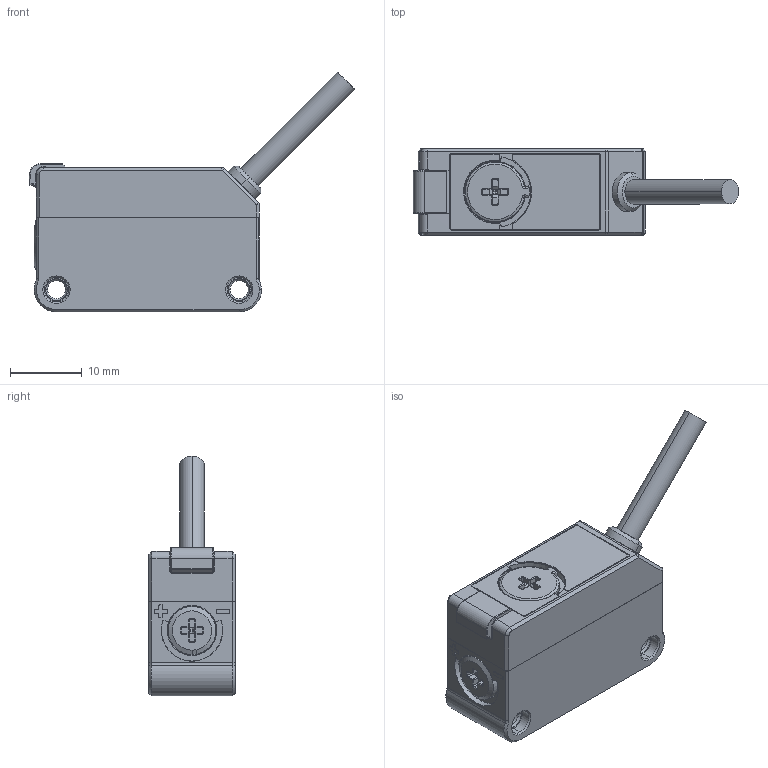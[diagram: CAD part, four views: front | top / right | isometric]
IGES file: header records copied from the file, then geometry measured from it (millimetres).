
Start section:  PTC IGES file: pe11111.igs
Global section: file name: pe11111.igs; native system: Creo Parametric by PTC Inc.; preprocessor: 2017260; author: wangyijun6; organization: Unknown; date: 20220824.221755; units: millimetre
Bounding box: 45.28 x 12 x 33.36 mm (x, y, z)
Volume: 6906.9 mm3; surface area: 4900.6 mm2
Topology: 1 solids, 3 shells, 752 faces, 2101 edges, 1378 vertices
Faces by surface type: revolution 411, bspline 339, extrusion 2
